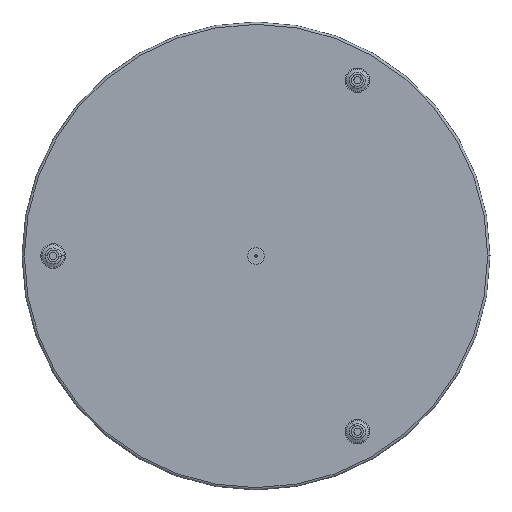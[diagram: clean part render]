
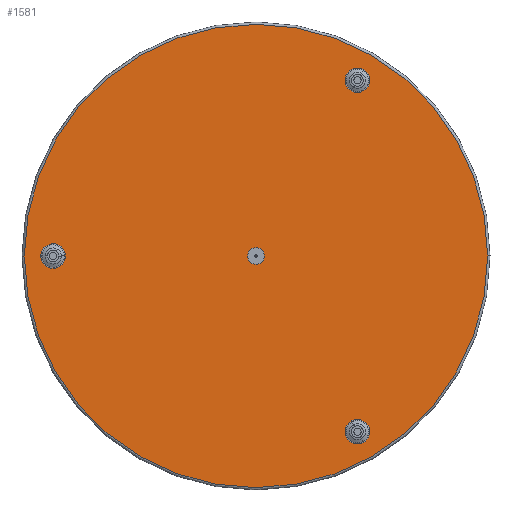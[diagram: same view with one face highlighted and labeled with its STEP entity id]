
A CAD part, front view. The second image highlights one B-rep face of the part: STEP entity #1581.
In plain terms, the highlighted planar face has unit normal (0, -1, 0).
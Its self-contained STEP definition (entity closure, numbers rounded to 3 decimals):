
#19=CARTESIAN_POINT('',(0.,0.,0.));
#20=DIRECTION('',(0.,1.,0.));
#21=DIRECTION('',(1.,0.,0.));
#22=AXIS2_PLACEMENT_3D('',#19,#20,#21);
#28=CARTESIAN_POINT('',(0.,0.,0.));
#29=DIRECTION('',(0.,1.,0.));
#30=DIRECTION('',(1.,0.,-0.001));
#31=AXIS2_PLACEMENT_3D('',#28,#29,#30);
#36=CARTESIAN_POINT('',(0.,0.,0.));
#37=DIRECTION('',(0.,1.,0.));
#38=DIRECTION('',(-1.,0.,0.));
#39=AXIS2_PLACEMENT_3D('',#36,#37,#38);
#44=CARTESIAN_POINT('',(0.,0.,0.));
#45=DIRECTION('',(0.,1.,0.));
#46=DIRECTION('',(-1.,0.,0.001));
#47=AXIS2_PLACEMENT_3D('',#44,#45,#46);
#52=CARTESIAN_POINT('',(0.,0.,0.));
#53=DIRECTION('',(0.,-1.,0.));
#54=DIRECTION('',(0.,0.,-1.));
#55=AXIS2_PLACEMENT_3D('',#52,#53,#54);
#60=CARTESIAN_POINT('',(0.,0.,0.));
#61=DIRECTION('',(0.,-1.,0.));
#62=DIRECTION('',(0.,0.,1.));
#63=AXIS2_PLACEMENT_3D('',#60,#61,#62);
#68=CARTESIAN_POINT('',(-173.4,0.,0.));
#69=DIRECTION('',(0.,-1.,0.));
#70=DIRECTION('',(1.,0.,0.));
#71=AXIS2_PLACEMENT_3D('',#68,#69,#70);
#76=CARTESIAN_POINT('',(-173.4,0.,0.));
#77=DIRECTION('',(0.,-1.,0.));
#78=DIRECTION('',(-1.,0.,0.));
#79=AXIS2_PLACEMENT_3D('',#76,#77,#78);
#84=CARTESIAN_POINT('',(86.7,0.,150.169));
#85=DIRECTION('',(0.,-1.,0.));
#86=DIRECTION('',(-0.5,0.,-0.866));
#87=AXIS2_PLACEMENT_3D('',#84,#85,#86);
#92=CARTESIAN_POINT('',(86.7,0.,150.169));
#93=DIRECTION('',(0.,-1.,0.));
#94=DIRECTION('',(0.516,0.,0.857));
#95=AXIS2_PLACEMENT_3D('',#92,#93,#94);
#100=CARTESIAN_POINT('',(86.7,0.,150.169));
#101=DIRECTION('',(0.,-1.,0.));
#102=DIRECTION('',(0.5,0.,0.866));
#103=AXIS2_PLACEMENT_3D('',#100,#101,#102);
#108=CARTESIAN_POINT('',(86.7,0.,150.169));
#109=DIRECTION('',(0.,-1.,0.));
#110=DIRECTION('',(-0.516,0.,-0.857));
#111=AXIS2_PLACEMENT_3D('',#108,#109,#110);
#116=CARTESIAN_POINT('',(86.7,0.,-150.169));
#117=DIRECTION('',(0.,-1.,0.));
#118=DIRECTION('',(-0.5,0.,0.866));
#119=AXIS2_PLACEMENT_3D('',#116,#117,#118);
#124=CARTESIAN_POINT('',(86.7,0.,-150.169));
#125=DIRECTION('',(0.,-1.,0.));
#126=DIRECTION('',(0.484,0.,-0.875));
#127=AXIS2_PLACEMENT_3D('',#124,#125,#126);
#132=CARTESIAN_POINT('',(86.7,0.,-150.169));
#133=DIRECTION('',(0.,-1.,0.));
#134=DIRECTION('',(0.5,0.,-0.866));
#135=AXIS2_PLACEMENT_3D('',#132,#133,#134);
#140=CARTESIAN_POINT('',(86.7,0.,-150.169));
#141=DIRECTION('',(0.,-1.,0.));
#142=DIRECTION('',(-0.484,0.,0.875));
#143=AXIS2_PLACEMENT_3D('',#140,#141,#142);
#847=CARTESIAN_POINT('',(-173.4,0.,0.));
#848=DIRECTION('',(0.,1.,0.));
#849=DIRECTION('',(1.,0.,0.));
#850=AXIS2_PLACEMENT_3D('',#847,#848,#849);
#879=CARTESIAN_POINT('',(-173.4,0.,0.));
#880=DIRECTION('',(0.,1.,0.));
#881=DIRECTION('',(-1.,0.,0.));
#882=AXIS2_PLACEMENT_3D('',#879,#880,#881);
#1294=CARTESIAN_POINT('',(198.,0.,-0.216));
#1295=CARTESIAN_POINT('',(-198.,0.,0.));
#1296=VERTEX_POINT('',#1294);
#1297=VERTEX_POINT('',#1295);
#1298=CARTESIAN_POINT('',(198.,0.,0.));
#1299=VERTEX_POINT('',#1298);
#1300=CARTESIAN_POINT('',(-198.,0.,0.216));
#1301=VERTEX_POINT('',#1300);
#1302=CARTESIAN_POINT('',(0.,0.,-7.25));
#1303=CARTESIAN_POINT('',(0.,0.,7.25));
#1304=VERTEX_POINT('',#1302);
#1305=VERTEX_POINT('',#1303);
#1306=CARTESIAN_POINT('',(-162.886,0.,0.));
#1307=CARTESIAN_POINT('',(-183.912,0.,0.191));
#1308=VERTEX_POINT('',#1306);
#1309=VERTEX_POINT('',#1307);
#1310=CARTESIAN_POINT('',(-183.914,0.,0.));
#1311=VERTEX_POINT('',#1310);
#1312=CARTESIAN_POINT('',(-162.888,0.,-0.191));
#1313=VERTEX_POINT('',#1312);
#1314=CARTESIAN_POINT('',(81.443,0.,141.064));
#1315=CARTESIAN_POINT('',(92.122,0.,159.177));
#1316=VERTEX_POINT('',#1314);
#1317=VERTEX_POINT('',#1315);
#1318=CARTESIAN_POINT('',(91.957,0.,159.274));
#1319=VERTEX_POINT('',#1318);
#1320=CARTESIAN_POINT('',(81.278,0.,141.161));
#1321=VERTEX_POINT('',#1320);
#1322=CARTESIAN_POINT('',(81.443,0.,-141.064));
#1323=CARTESIAN_POINT('',(91.79,0.,-159.368));
#1324=VERTEX_POINT('',#1322);
#1325=VERTEX_POINT('',#1323);
#1326=CARTESIAN_POINT('',(91.957,0.,-159.274));
#1327=VERTEX_POINT('',#1326);
#1328=CARTESIAN_POINT('',(81.61,0.,-140.97));
#1329=VERTEX_POINT('',#1328);
#1530=CARTESIAN_POINT('',(0.,0.,0.));
#1531=DIRECTION('',(0.,1.,0.));
#1532=DIRECTION('',(1.,0.,0.));
#1533=AXIS2_PLACEMENT_3D('',#1530,#1531,#1532);
#1534=PLANE('',#1533);
#1536=ORIENTED_EDGE('',*,*,#1535,.T.);
#1538=ORIENTED_EDGE('',*,*,#1537,.T.);
#1540=ORIENTED_EDGE('',*,*,#1539,.T.);
#1542=ORIENTED_EDGE('',*,*,#1541,.T.);
#1543=EDGE_LOOP('',(#1536,#1538,#1540,#1542));
#1544=FACE_OUTER_BOUND('',#1543,.F.);
#1546=ORIENTED_EDGE('',*,*,#1545,.T.);
#1548=ORIENTED_EDGE('',*,*,#1547,.T.);
#1549=EDGE_LOOP('',(#1546,#1548));
#1550=FACE_BOUND('',#1549,.F.);
#1552=ORIENTED_EDGE('',*,*,#1551,.T.);
#1554=ORIENTED_EDGE('',*,*,#1553,.F.);
#1556=ORIENTED_EDGE('',*,*,#1555,.T.);
#1558=ORIENTED_EDGE('',*,*,#1557,.F.);
#1559=EDGE_LOOP('',(#1552,#1554,#1556,#1558));
#1560=FACE_BOUND('',#1559,.F.);
#1562=ORIENTED_EDGE('',*,*,#1561,.T.);
#1564=ORIENTED_EDGE('',*,*,#1563,.T.);
#1566=ORIENTED_EDGE('',*,*,#1565,.T.);
#1568=ORIENTED_EDGE('',*,*,#1567,.T.);
#1569=EDGE_LOOP('',(#1562,#1564,#1566,#1568));
#1570=FACE_BOUND('',#1569,.F.);
#1572=ORIENTED_EDGE('',*,*,#1571,.T.);
#1574=ORIENTED_EDGE('',*,*,#1573,.T.);
#1576=ORIENTED_EDGE('',*,*,#1575,.T.);
#1578=ORIENTED_EDGE('',*,*,#1577,.T.);
#1579=EDGE_LOOP('',(#1572,#1574,#1576,#1578));
#1580=FACE_BOUND('',#1579,.F.);
#1581=ADVANCED_FACE('',(#1544,#1550,#1560,#1570,#1580),#1534,.F.);
#23=CIRCLE('',#22,198.);
#32=CIRCLE('',#31,198.);
#40=CIRCLE('',#39,198.);
#48=CIRCLE('',#47,198.);
#56=CIRCLE('',#55,7.25);
#64=CIRCLE('',#63,7.25);
#72=CIRCLE('',#71,10.514);
#80=CIRCLE('',#79,10.514);
#88=CIRCLE('',#87,10.514);
#96=CIRCLE('',#95,10.514);
#104=CIRCLE('',#103,10.514);
#112=CIRCLE('',#111,10.514);
#120=CIRCLE('',#119,10.514);
#128=CIRCLE('',#127,10.514);
#136=CIRCLE('',#135,10.514);
#144=CIRCLE('',#143,10.514);
#851=CIRCLE('',#850,10.514);
#883=CIRCLE('',#882,10.514);
#1535=EDGE_CURVE('',#1299,#1296,#23,.T.);
#1537=EDGE_CURVE('',#1296,#1297,#32,.T.);
#1539=EDGE_CURVE('',#1297,#1301,#40,.T.);
#1541=EDGE_CURVE('',#1301,#1299,#48,.T.);
#1545=EDGE_CURVE('',#1304,#1305,#56,.T.);
#1547=EDGE_CURVE('',#1305,#1304,#64,.T.);
#1551=EDGE_CURVE('',#1308,#1309,#72,.T.);
#1553=EDGE_CURVE('',#1311,#1309,#883,.T.);
#1555=EDGE_CURVE('',#1311,#1313,#80,.T.);
#1557=EDGE_CURVE('',#1308,#1313,#851,.T.);
#1561=EDGE_CURVE('',#1316,#1317,#88,.T.);
#1563=EDGE_CURVE('',#1317,#1319,#96,.T.);
#1565=EDGE_CURVE('',#1319,#1321,#104,.T.);
#1567=EDGE_CURVE('',#1321,#1316,#112,.T.);
#1571=EDGE_CURVE('',#1324,#1325,#120,.T.);
#1573=EDGE_CURVE('',#1325,#1327,#128,.T.);
#1575=EDGE_CURVE('',#1327,#1329,#136,.T.);
#1577=EDGE_CURVE('',#1329,#1324,#144,.T.);
